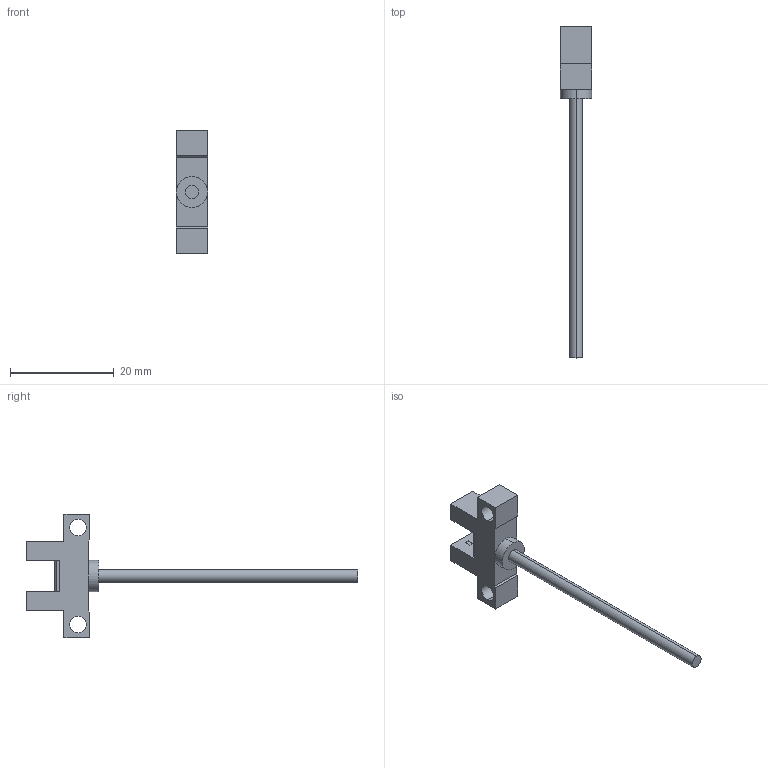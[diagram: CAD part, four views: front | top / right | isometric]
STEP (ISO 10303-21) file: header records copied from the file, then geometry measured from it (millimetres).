
FILE_DESCRIPTION (( 'STEP AP203' ), '1' );
FILE_NAME ('pm-k25.STEP', '2015-07-23T04:37:42', ( '' ), ( '' ), 'SwSTEP 2.0', 'SolidWorks 2010', '' );
FILE_SCHEMA (( 'CONFIG_CONTROL_DESIGN' ));
Length unit declared in the file: millimetre
Products named in the file (1): pm-k25
Bounding box: 6 x 64 x 23.9 mm (x, y, z)
Volume: 1279.9 mm3; surface area: 1382.5 mm2
Topology: 1 solids, 1 shells, 61 faces, 160 edges, 106 vertices
Faces by surface type: plane 53, cylinder 8
Entity records: 1941 total; most frequent: CARTESIAN_POINT 328, ORIENTED_EDGE 320, DIRECTION 302, EDGE_CURVE 160, VECTOR 142, LINE 142, VERTEX_POINT 106, AXIS2_PLACEMENT_3D 80
